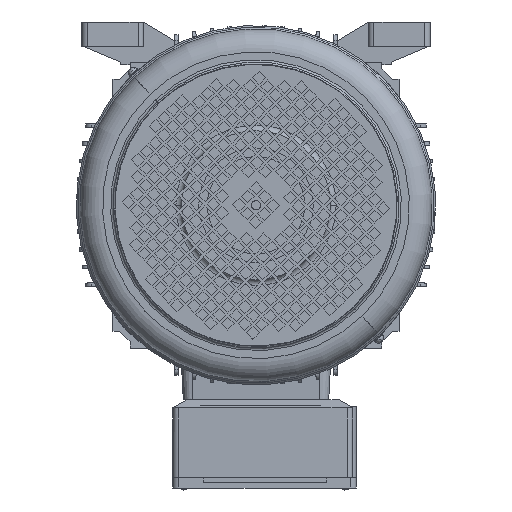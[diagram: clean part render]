
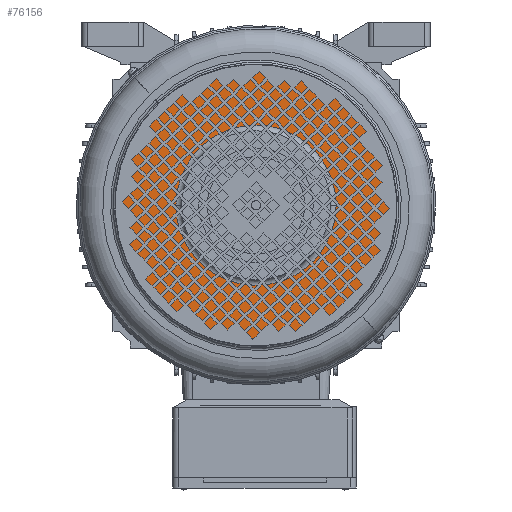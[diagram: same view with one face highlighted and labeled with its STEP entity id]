
A CAD part, front view. The second image highlights one B-rep face of the part: STEP entity #76156.
In plain terms, the highlighted planar face has unit normal (0, -1, 0).
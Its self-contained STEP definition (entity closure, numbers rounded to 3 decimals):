
#712 = EDGE_CURVE ( 'NONE', #48677, #42162, #58327, .T. ) ;
#17916 = AXIS2_PLACEMENT_3D ( 'NONE', #68664, #81455, #88289 ) ;
#18216 = CARTESIAN_POINT ( 'NONE',  ( 0., 15.906, 0. ) ) ;
#18670 = CIRCLE ( 'NONE', #52762, 116.844 ) ;
#19319 = DIRECTION ( 'NONE',  ( 0., 0., 1. ) ) ;
#20706 = EDGE_CURVE ( 'NONE', #41034, #51573, #18670, .T. ) ;
#20743 = PLANE ( 'NONE',  #17916 ) ;
#22340 = DIRECTION ( 'NONE',  ( 0., 0., 1. ) ) ;
#23779 = AXIS2_PLACEMENT_3D ( 'NONE', #35685, #83320, #22340 ) ;
#25864 = DIRECTION ( 'NONE',  ( 0., 1., 0. ) ) ;
#27749 = CARTESIAN_POINT ( 'NONE',  ( 0., 15.906, 70. ) ) ;
#29744 = CARTESIAN_POINT ( 'NONE',  ( 0., 15.906, 0. ) ) ;
#32512 = EDGE_CURVE ( 'NONE', #42162, #48677, #66854, .T. ) ;
#35606 = CARTESIAN_POINT ( 'NONE',  ( 0., 15.906, -116.844 ) ) ;
#35685 = CARTESIAN_POINT ( 'NONE',  ( 0., 15.906, 0. ) ) ;
#41034 = VERTEX_POINT ( 'NONE', #35606 ) ;
#42162 = VERTEX_POINT ( 'NONE', #27749 ) ;
#44268 = AXIS2_PLACEMENT_3D ( 'NONE', #29744, #83867, #77931 ) ;
#46506 = ORIENTED_EDGE ( 'NONE', *, *, #55062, .F. ) ;
#48677 = VERTEX_POINT ( 'NONE', #51309 ) ;
#51309 = CARTESIAN_POINT ( 'NONE',  ( 0., 15.906, -70. ) ) ;
#51573 = VERTEX_POINT ( 'NONE', #61340 ) ;
#51803 = DIRECTION ( 'NONE',  ( 0., 1., 0. ) ) ;
#52762 = AXIS2_PLACEMENT_3D ( 'NONE', #18216, #51803, #52974 ) ;
#52974 = DIRECTION ( 'NONE',  ( 0., 0., 1. ) ) ;
#53483 = CARTESIAN_POINT ( 'NONE',  ( 0., 15.906, 0. ) ) ;
#55062 = EDGE_CURVE ( 'NONE', #51573, #41034, #85563, .T. ) ;
#55386 = EDGE_LOOP ( 'NONE', ( #46506, #61141 ) ) ;
#56750 = AXIS2_PLACEMENT_3D ( 'NONE', #53483, #25864, #19319 ) ;
#58327 = CIRCLE ( 'NONE', #23779, 70. ) ;
#59571 = FACE_BOUND ( 'NONE', #67213, .T. ) ;
#61141 = ORIENTED_EDGE ( 'NONE', *, *, #20706, .F. ) ;
#61340 = CARTESIAN_POINT ( 'NONE',  ( 0., 15.906, 116.844 ) ) ;
#63703 = ORIENTED_EDGE ( 'NONE', *, *, #32512, .T. ) ;
#66854 = CIRCLE ( 'NONE', #44268, 70. ) ;
#67213 = EDGE_LOOP ( 'NONE', ( #63703, #68158 ) ) ;
#68158 = ORIENTED_EDGE ( 'NONE', *, *, #712, .T. ) ;
#68664 = CARTESIAN_POINT ( 'NONE',  ( -70., 15.906, 0. ) ) ;
#76156 = ADVANCED_FACE ( 'NONE', ( #59571, #80749 ), #20743, .T. ) ;
#77931 = DIRECTION ( 'NONE',  ( 0., 0., 1. ) ) ;
#80749 = FACE_OUTER_BOUND ( 'NONE', #55386, .T. ) ;
#81455 = DIRECTION ( 'NONE',  ( 0., -1., 0. ) ) ;
#83320 = DIRECTION ( 'NONE',  ( 0., 1., 0. ) ) ;
#83867 = DIRECTION ( 'NONE',  ( 0., 1., 0. ) ) ;
#85563 = CIRCLE ( 'NONE', #56750, 116.844 ) ;
#88289 = DIRECTION ( 'NONE',  ( 0., 0., -1. ) ) ;
